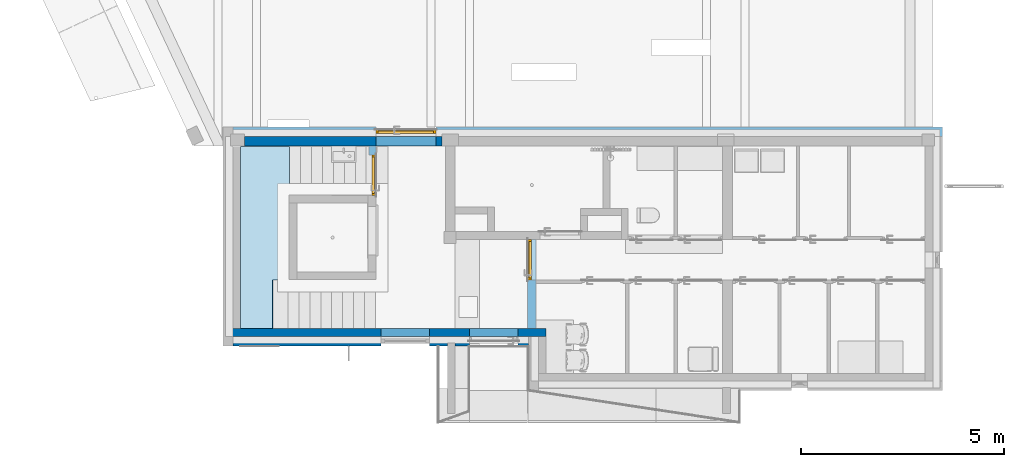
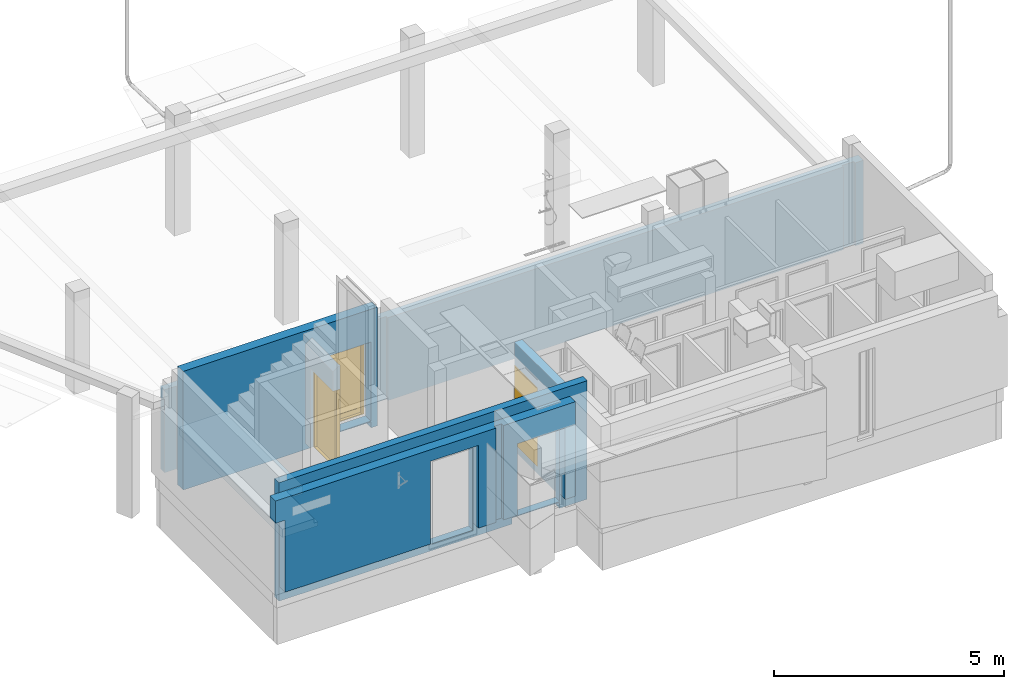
# One storey, part 6 of 55: 3 doors, 3 walls, 1 slab, 3 openings, 1 element without a shape of its own, plus 3 elements that do not belong to this part.
"""IFC2X3 building model written with IfcOpenShell, lengths in millimetres."""

from ifc_helpers import new_model, entity, si_unit, converted_unit, direction, frame, frame_2d, origin, place, context, subcontext, project, spatial, polyline, rectangle, extrude, clip, bounded_halfspace, faceted_brep, source, transform, mapped, material, material_list, layer, layer_set, layer_usage, type_object, type_shapes, element, fill, aggregate, save


model = new_model("IFC2X3")

# Units and contexts
model_context = context("Model", 3, precision=0.01, world=origin(), true_north=direction((6.123233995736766e-17, 1.0)))
plan_context = context("Plan", 3, precision=0.01, world=origin(), true_north=direction((6.123233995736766e-17, 1.0)))
body_context = subcontext(model_context, "Body", "Model", "MODEL_VIEW")
ifc_project = project(units=[si_unit("LENGTHUNIT", "METRE", prefix="MILLI"), converted_unit("PLANEANGLEUNIT", "DEGREE", entity("IfcPlaneAngleMeasure", 0.017453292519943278), si_unit("PLANEANGLEUNIT", "RADIAN"), dimensions=[0, 0, 0, 0, 0, 0, 0]), si_unit("AREAUNIT", "SQUARE_METRE")], contexts=[model_context, plan_context])

# Site, building, storey
site_placement = place(None, origin())
site = spatial("IfcSite", under=ifc_project, at=site_placement, Name="Default", CompositionType="ELEMENT")
building_placement = place(site_placement, origin())
building = spatial("IfcBuilding", under=site, at=building_placement, CompositionType="ELEMENT")
storey_placement = place(building_placement, origin())
storey = spatial("IfcBuildingStorey", under=building, at=storey_placement, Name="1K", CompositionType="ELEMENT", Elevation=0.0)

# Stair, slab
type_product = type_object("IfcTypeProduct", Name="Precast Stair:Default. Monteeritav raudbetoontrepp")
stair_placement = place(storey_placement, origin())
stair = element("IfcStair", 1, at=stair_placement, inside=storey, type_object=type_product, Name="Precast Stair:Stair", ObjectType="Precast Stair:Default. Monteeritav raudbetoontrepp", ShapeType="HALF_TURN_STAIR")
ifc_material_1 = material(Name="Temp. Betoon. Armeeritud. Kohtvalu")
slab_type = type_object("IfcSlabType", Name="Monolithic Landing:Default Landing. Raudbetoon", PredefinedType="LANDING")
slab_placement = place(stair_placement, frame((0.0, 1905.0014695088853, 0.0)))
slab = element("IfcSlab", 2, at=slab_placement, type_object=slab_type, material=ifc_material_1, Name="Precast Stair:Stair:496210 Landing 1", ObjectType="Monolithic Landing:Default Landing. Raudbetoon", PredefinedType="LANDING", context=body_context, shape_type="Brep", body=[
    faceted_brep([(902.4937255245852, 1204.9923864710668, 1542.5), (1213.7438214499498, 1204.9923864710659, 1542.5), (1213.7438214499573, 3292.4954377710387, 1542.5), (1213.7438214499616, 4492.495437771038, 1542.5), (0.0, 4492.495437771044, 1542.5), (0.0, 0.0, 1542.5), (792.4937255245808, 0.0, 1542.5), (792.4937255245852, 1201.5875000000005, 1542.5), (902.4937255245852, 1201.5875, 1542.5), (902.4937255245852, 1204.9923864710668, 1322.4999999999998), (902.4937255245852, 1201.5875, 1322.4999999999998), (1213.7438214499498, 1204.9923864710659, 1322.4999999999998), (1213.7438214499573, 3292.4954377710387, 1322.4999999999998), (1213.7438214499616, 4492.495437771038, 1322.4999999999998), (0.0, 4492.495437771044, 1322.4999999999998), (0.0, 0.0, 1322.4999999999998), (892.4937255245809, 0.0, 1322.4999999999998), (892.4937255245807, 0.0, 1432.5), (792.4937255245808, 0.0, 1432.5), (892.4937255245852, 1201.5875, 1322.4999999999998), (892.4937255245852, 1201.5875, 1432.5), (792.4937255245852, 1201.5875000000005, 1432.5)], [[[0, 1, 2, 3, 4, 5, 6, 7, 8]], [[9, 0, 8, 10]], [[1, 0, 9, 11]], [[2, 1, 11, 12]], [[4, 3, 13, 14]], [[5, 4, 14, 15]], [[5, 15, 16, 17, 18, 6]], [[11, 9, 10, 19, 16, 15, 14, 13, 12]], [[20, 21, 18, 17]], [[7, 21, 20, 19, 10, 8]], [[21, 7, 6, 18]], [[20, 17, 16, 19]], [[3, 2, 12, 13]]]),
])
aggregate(stair, [slab])

# Wall
ifc_material_2 = material(Name="_K. Müüritis. Väikeplokk. Betoon-õõnesplokk")
ifc_layer_1 = layer(ifc_material_2, 240.0)
ifc_layer_set_1 = layer_set([ifc_layer_1], Name="Basic Wall:Columbia 240mm")
wall_type_1 = type_object("IfcWallType", Name="Basic Wall:Columbia 240mm", PredefinedType="STANDARD", material=ifc_layer_set_1)
wall_1_placement = place(storey_placement, frame((100.0, 6525.000000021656, -180.0)))
element("IfcWall", 3, at=wall_1_placement, inside=storey, type_object=wall_type_1, Name="Basic Wall:Columbia 240mm", ObjectType="Basic Wall:Columbia 240mm", context=body_context, shape_type="Brep", body=[
    faceted_brep([(4880.001886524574, -120.0, 3150.0), (0.0, -120.0, 3150.0), (0.0, -120.0, 160.0), (0.0, -120.0, 0.0), (3220.0, -120.0, 0.0), (3220.0, -120.0, 160.0), (4720.0, -120.0, 160.0), (4720.0, -120.0, 0.0), (4880.001886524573, -120.0, 0.0), (4880.001886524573, -120.0, 160.0), (4720.0, -120.0, 2280.0), (4720.0, -120.0, 180.0), (3250.0, -120.0, 180.0), (3250.0, -120.0, 2280.0), (4720.0, 120.0, 180.0), (4720.0, 120.0, 380.0), (4720.0, 120.0, 2280.0), (3250.0, 120.0, 2280.0), (3250.0, 120.0, 380.0), (3250.0, 120.0, 180.0), (4880.001886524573, 120.0, 3150.0), (4880.001886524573, 120.0, 2580.9998016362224), (4880.001886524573, 120.0, 380.0), (4880.001886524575, 120.0, 0.0), (4720.0, 120.0, 0.0), (4720.0, 120.0, 160.0), (3220.0, 120.0, 160.0), (3220.0, 120.0, 0.0), (0.0, 120.0, 0.0), (0.0, 120.0, 380.0), (0.0, 120.0, 2580.9998016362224), (0.0, 120.0, 3150.0)], [[[0, 1, 2, 3, 4, 5, 6, 7, 8, 9], [10, 11, 12, 13]], [[14, 15, 16, 17, 18, 19], [20, 21, 22, 23, 24, 25, 26, 27, 28, 29, 30, 31]], [[3, 28, 27, 4]], [[23, 22, 21, 20, 0, 9, 8]], [[1, 0, 20, 31]], [[31, 30, 29, 28, 3, 2, 1]], [[14, 11, 10, 16, 15]], [[11, 14, 19, 12]], [[12, 19, 18, 17, 13]], [[16, 10, 13, 17]], [[25, 6, 5, 26]], [[26, 5, 4, 27]], [[6, 25, 24, 7]], [[23, 8, 7, 24]]], outer=[[True, False], [False, True], [True], [True], [True], [True], [True], [True], [True], [True], [True], [True], [True], [True]]),
])

# Wall, opening, door
ifc_material_3 = material(Name="_K. Väisviimistlus. Krohv. Valge")
ifc_layer_2 = layer(ifc_material_3, 5.0)
ifc_layer_3 = layer(ifc_material_2, 190.00000000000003)
ifc_layer_4 = layer(ifc_material_3, 5.0)
ifc_layer_set_2 = layer_set([ifc_layer_2, ifc_layer_3, ifc_layer_4], Name="Basic Wall:SS-01. 190")
ifc_layer_usage_1 = layer_usage(ifc_layer_set_2, "AXIS2", "POSITIVE", -100.00000000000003)
wall_type_2 = type_object("IfcWallType", Name="Basic Wall:SS-01. 190", PredefinedType="STANDARD", material=ifc_layer_set_2)
wall_2_placement = place(storey_placement, frame((7190.0, 4100.0, -180.0), z_axis=(0.0, 0.0, 1.0), x_axis=(0.0, -1.0, 0.0)))
wall_2 = element("IfcWallStandardCase", 4, at=wall_2_placement, inside=storey, type_object=wall_type_2, material=ifc_layer_usage_1, Name="Basic Wall:SS-01. 190", ObjectType="Basic Wall:SS-01. 190", context=body_context, shape_type="SweptSolid", body=[
    extrude(rectangle(XDim=2200.0000000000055, YDim=200.0, at=frame_2d((1100.0000000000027, 2.842170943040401e-14), x_axis=(-1.0, 0.0))), origin(), (0.0, 0.0, 1.0), 2885.0000000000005),
])
opening_1_placement = place(wall_2_placement, frame((4100.0, -7190.0, 180.0), z_axis=(0.0, 0.0, 1.0), x_axis=(0.0, 1.0, 0.0)))
opening_1 = element("IfcOpeningElement", 5, at=opening_1_placement, cuts=wall_2, Name="Basic Wall:SS-01. 190", ObjectType="Opening", context=body_context, shape_type="Brep", body=[
    faceted_brep([(8182.0, 4100.0, 2100.0), (8182.0, 3100.0, 2100.0), (8182.0, 3100.0, 0.0), (8182.0, 4100.0, 0.0), (6090.0, 4100.0, 0.0), (6090.0, 4100.0, 2100.0), (6090.0, 3100.0, 0.0), (6090.0, 3100.0, 2100.0)], [[[0, 1, 2, 3]], [[3, 4, 5, 0]], [[2, 6, 4, 3]], [[1, 7, 6, 2]], [[5, 7, 1, 0]], [[7, 5, 4, 6]]]),
])
ifc_material_4 = material(Name="<Unnamed>")
ifc_material_5 = material(Name="Default")
ifc_material_list_1 = material_list([ifc_material_4, ifc_material_5])
door_style_1 = type_object("IfcDoorStyle", Name="HR_Generic_Hinged_Single:Default. Manteluks lävepakuga. 1000 x 2100 mm. Left", ConstructionType="NOTDEFINED", OperationType="NOTDEFINED", ParameterTakesPrecedence=False, Sizeable=False, material=ifc_material_list_1)
shared_shape_1 = source(origin(), body_context, "Body", "Brep", [
    faceted_brep([(965.0, 1092.0, 20.0), (35.0, 1092.0, 20.0), (35.0, 1062.0, 20.0), (50.0, 1062.0, 20.0), (50.0, 1000.0, 20.0), (950.0, 1000.0, 20.0), (950.0, 1062.0, 20.0), (965.0, 1062.0, 20.0), (35.0, 1092.0, 0.0), (965.0, 1092.0, 0.0), (965.0, 1062.0, 0.0), (950.0, 1062.0, 0.0), (950.0, 1000.0, 0.0), (50.0, 1000.0, 0.0), (50.0, 1062.0, 0.0), (35.0, 1062.0, 0.0)], [[[0, 1, 2, 3, 4, 5, 6, 7]], [[8, 9, 10, 11, 12, 13, 14, 15]], [[1, 0, 9, 8]], [[5, 4, 13, 12]], [[2, 1, 8, 15]], [[0, 7, 10, 9]], [[3, 14, 13, 4]], [[14, 3, 2, 15]], [[6, 11, 10, 7]], [[11, 6, 5, 12]]]),
    faceted_brep([(37.0, 1062.0, 2060.0), (37.0, 1062.0, 25.0), (963.0, 1062.0, 25.0), (963.0, 1062.0, 2060.0), (27.0, 1102.0, 25.0), (27.0, 1102.0, 2070.0), (973.0, 1102.0, 2070.0), (973.0, 1102.0, 25.0), (37.0, 1092.0, 2060.0), (37.0, 1092.0, 25.0), (27.0, 1092.0, 25.0), (973.0, 1092.0, 25.0), (963.0, 1092.0, 25.0), (963.0, 1092.0, 2060.0), (27.0, 1092.0, 2070.0), (973.0, 1092.0, 2070.0)], [[[0, 1, 2, 3]], [[4, 5, 6, 7]], [[1, 0, 8, 9]], [[2, 1, 9, 10, 4, 7, 11, 12]], [[3, 2, 12, 13]], [[0, 3, 13, 8]], [[14, 10, 9, 8, 13, 12, 11, 15]], [[6, 5, 14, 15]], [[7, 6, 15, 11]], [[5, 4, 10, 14]]]),
    faceted_brep([(1000.0, 1000.0, 0.0), (950.0, 1000.0, 0.0), (950.0, 1062.0, 0.0), (965.0, 1062.0, 0.0), (965.0, 1092.0, 0.0), (1000.0, 1092.0, 0.0), (1000.0, 1000.0, 2100.0), (0.0, 1000.0, 2100.0), (0.0, 1000.0, 0.0), (50.0, 1000.0, 0.0), (50.0, 1000.0, 2050.0), (950.0, 1000.0, 2050.0), (950.0, 1062.0, 2050.0), (35.0, 1062.0, 2065.0), (965.0, 1062.0, 2065.0), (50.0, 1062.0, 2050.0), (50.0, 1062.0, 0.0), (35.0, 1062.0, 0.0), (965.0, 1092.0, 2065.0), (0.0, 1092.0, 0.0), (0.0, 1092.0, 2100.0), (1000.0, 1092.0, 2100.0), (35.0, 1092.0, 2065.0), (35.0, 1092.0, 0.0)], [[[0, 1, 2, 3, 4, 5]], [[1, 0, 6, 7, 8, 9, 10, 11]], [[1, 11, 12, 2]], [[13, 14, 3, 2, 12, 15, 16, 17]], [[3, 14, 18, 4]], [[19, 20, 21, 5, 4, 18, 22, 23]], [[0, 5, 21, 6]], [[8, 19, 23, 17, 16, 9]], [[19, 8, 7, 20]], [[13, 17, 23, 22]], [[10, 9, 16, 15]], [[7, 6, 21, 20]], [[11, 10, 15, 12]], [[14, 13, 22, 18]]]),
])
type_shapes(door_style_1, [shared_shape_1])
door_1_placement = place(opening_1_placement, frame((8182.0, 3100.0, 0.0), z_axis=(0.0, 0.0, 1.0), x_axis=(0.0, 1.0, 0.0)))
door_1 = element("IfcDoor", 6, at=door_1_placement, inside=storey, type_object=door_style_1, material=ifc_material_list_1, Name="HR_Generic_Hinged_Single:Default. Manteluks lävepakuga. 1000 x 2100 mm. Left", ObjectType="HR_Generic_Hinged_Single:Default. Manteluks lävepakuga. 1000 x 2100 mm. Left", OverallHeight=2130.000000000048, OverallWidth=1060.0000000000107, context=body_context, shape_type="MappedRepresentation", body=[
    mapped(shared_shape_1, transform((0.0, 0.0, 0.0), scale=1.0)),
])
fill(opening_1, door_1)

# Wall
ifc_layer_5 = layer(ifc_material_2, 190.00000000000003)
ifc_layer_set_3 = layer_set([ifc_layer_5], Name="Basic Wall:Columbia 190mm")
wall_type_3 = type_object("IfcWallType", Name="Basic Wall:Columbia 190mm", PredefinedType="STANDARD", material=ifc_layer_set_3)
wall_3_placement = place(storey_placement, frame((7540.0, 1805.0, -180.0), z_axis=(0.0, 0.0, 1.0), x_axis=(-1.0, 0.0, 0.0)))
element("IfcWall", 7, at=wall_3_placement, inside=storey, type_object=wall_type_3, Name="Basic Wall:Columbia 190mm", ObjectType="Basic Wall:Columbia 190mm", context=body_context, shape_type="Brep", body=[
    faceted_brep([(7740.0, -95.0, 3150.0002019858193), (7540.0, -95.0, 3150.0002019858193), (2490.004939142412, -95.0, 3150.0002019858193), (0.0, -95.0, 3150.0002019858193), (0.0, -95.0, 0.0), (250.0, -95.0, 0.0), (450.0, -95.0, 0.0), (690.0, -95.0, 0.0), (690.0, -95.0, 160.0), (1890.0, -95.0, 160.0), (1890.0, -95.0, 0.0), (7540.0, -95.0, 0.0), (7740.0, -95.0, 0.0), (7740.0, -95.0, 380.0), (7740.0, -95.0, 2295.0), (1890.0, -95.0, 2280.0), (1890.0, -95.0, 180.0), (690.0, -95.0, 180.0), (690.0, -95.0, 2280.0), (4070.0, -95.0, 2580.0), (4070.0, -95.0, 180.0), (2870.0, -95.0, 180.0), (2870.0, -95.0, 2580.0), (0.0, 95.0, 3150.0002019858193), (2490.004939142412, 95.0, 3150.0002019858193), (7540.0, 95.0, 3150.0002019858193), (7740.0, 95.0, 3150.0002019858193), (7740.0, 95.0, 2295.0), (7740.0, 95.0, 380.0), (7740.0, 95.0, 0.0), (1890.0, 95.0, 0.0), (1890.0, 95.0, 160.0), (690.0, 95.0, 160.0), (690.0, 95.0, 0.0), (190.0, 95.0, 0.0), (0.0, 95.0, 0.0), (0.0, 95.0, 2885.0), (1890.0, 95.0, 180.0), (1890.0, 95.0, 380.0), (1890.0, 95.0, 2280.0), (690.0, 95.0, 2280.0), (690.0, 95.0, 380.0), (690.0, 95.0, 180.0), (4070.0, 95.0, 180.0), (4070.0, 95.0, 380.0), (4070.0, 95.0, 2580.0), (2870.0, 95.0, 2580.0), (2870.0, 95.0, 380.0), (2870.0, 95.0, 180.0)], [[[0, 1, 2, 3, 4, 5, 6, 7, 8, 9, 10, 11, 12, 13, 14], [15, 16, 17, 18], [19, 20, 21, 22]], [[23, 24, 25, 26, 27, 28, 29, 30, 31, 32, 33, 34, 35, 36], [37, 38, 39, 40, 41, 42], [43, 44, 45, 46, 47, 48]], [[4, 35, 34, 33, 7, 6, 5]], [[3, 2, 1, 0, 26, 25, 24, 23]], [[0, 14, 13, 12, 29, 28, 27, 26]], [[4, 3, 23, 36, 35]], [[37, 16, 15, 39, 38]], [[16, 37, 42, 17]], [[17, 42, 41, 40, 18]], [[39, 15, 18, 40]], [[43, 20, 19, 45, 44]], [[45, 19, 22, 46]], [[21, 48, 47, 46, 22]], [[20, 43, 48, 21]], [[31, 9, 8, 32]], [[32, 8, 7, 33]], [[9, 31, 30, 10]], [[29, 12, 11, 10, 30]]]),
])

# Wall, opening, door
ifc_layer_6 = layer(ifc_material_3, 10.0)
ifc_material_6 = material(Name="_K. Soojustus. EPS Silver")
ifc_layer_7 = layer(ifc_material_6, 230.0)
ifc_layer_set_4 = layer_set([ifc_layer_6, ifc_layer_7], Name="Basic Wall:VS-01")
ifc_layer_usage_2 = layer_usage(ifc_layer_set_4, "AXIS2", "NEGATIVE", 120.0)
wall_type_4 = type_object("IfcWallType", Name="Basic Wall:VS-01", PredefinedType="STANDARD", material=ifc_layer_set_4)
wall_4_placement = place(storey_placement, frame((-190.0, 6765.000000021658, 200.0)))
wall_4 = element("IfcWallStandardCase", 8, at=wall_4_placement, inside=storey, type_object=wall_type_4, material=ifc_layer_usage_2, Name="Basic Wall:VS-01", ObjectType="Basic Wall:VS-01", context=body_context, shape_type="Clipping", body=[
    clip(clip(clip(clip(extrude(rectangle(XDim=17519.999999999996, YDim=239.9999999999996, at=frame_2d((8759.999999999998, -1.4921397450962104e-13), x_axis=(-1.0, 0.0))), origin(), (0.0, 0.0, 1.0), 2200.9998016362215), bounded_halfspace(frame((0.0, -60.0, 0.0), z_axis=(0.0, 1.0, 0.0), x_axis=(0.0, 0.0, -1.0)), True, frame((0.0, -60.0, 0.0), z_axis=(0.0, 1.0, 0.0), x_axis=(0.0, 0.0, -1.0)), polyline([(0.0, 0.0), (-1915.0, 0.0), (-2200.9998016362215, 0.0), (-2200.9998016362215, -290.0), (0.0, -290.0), (0.0, 0.0)]))), bounded_halfspace(frame((290.0, -120.0, 0.0), z_axis=(1.0, 0.0, 0.0), x_axis=(0.0, 0.0, -1.0)), True, frame((290.0, -120.0, 0.0), z_axis=(1.0, 0.0, 0.0), x_axis=(0.0, 0.0, -1.0)), polyline([(0.0, 0.0), (0.0, 60.0), (-2200.9998016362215, 60.0), (-2200.9998016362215, 0.0), (0.0, 0.0)]))), bounded_halfspace(frame((5170.001886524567, -60.0, 0.0), z_axis=(0.0, 1.0, 0.0), x_axis=(0.0, 0.0, -1.0)), True, frame((5170.001886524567, -60.0, 0.0), z_axis=(0.0, 1.0, 0.0), x_axis=(0.0, 0.0, -1.0)), polyline([(0.0, 0.0), (-2200.9998016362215, 0.0), (-2200.9998016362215, -400.0), (0.0, -400.0), (0.0, 0.0)]))), bounded_halfspace(frame((17015.0, -60.0, 2200.9998016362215), z_axis=(0.0, 1.0, 0.0), x_axis=(0.0, 0.0, -1.0)), True, frame((17015.0, -60.0, 2200.9998016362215), z_axis=(0.0, 1.0, 0.0), x_axis=(0.0, 0.0, -1.0)), polyline([(0.0, 0.0), (0.0, -300.0), (2200.9998016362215, -300.0), (2200.9998016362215, 0.0), (0.0, 0.0)]))),
])
opening_2_placement = place(wall_4_placement, frame((190.0, -6765.000000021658, -200.0)))
opening_2 = element("IfcOpeningElement", 9, at=opening_2_placement, cuts=wall_4, Name="Basic Wall:VS-01", ObjectType="Opening", context=body_context, shape_type="Brep", body=[
    faceted_brep([(4820.0, 5719.000000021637, 2100.0), (3350.0, 5719.000000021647, 2100.0), (3350.0, 5719.000000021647, 0.0), (4820.0, 5719.000000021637, 0.0), (4820.0, 6719.000000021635, 0.0), (4820.0, 6719.000000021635, -20.0), (4820.0, 6811.000000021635, -20.0), (4820.0, 6811.000000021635, 0.0), (4820.0, 7811.000000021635, 0.0), (4820.0, 7811.000000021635, 2100.0), (3350.0, 6719.000000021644, 0.0), (3350.0, 7811.000000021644, 2100.0), (3350.0, 7811.000000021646, 0.0), (3350.0, 6811.000000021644, 0.0), (3350.0, 6811.000000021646, -20.0), (3350.0, 6719.000000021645, -20.0)], [[[0, 1, 2, 3]], [[3, 4, 5, 6, 7, 8, 9, 0]], [[2, 10, 4, 3]], [[1, 11, 12, 13, 14, 15, 10, 2]], [[9, 11, 1, 0]], [[11, 9, 8, 12]], [[8, 7, 13, 12]], [[14, 13, 7, 6]], [[5, 4, 10, 15]], [[6, 5, 15, 14]]]),
])
ifc_material_7 = material(Name="_K. Avatäited. Raam. Alumiinium")
ifc_material_8 = material(Name="_K. Klaas. Pakett")
ifc_material_list_2 = material_list([ifc_material_7, ifc_material_8])
door_style_2 = type_object("IfcDoorStyle", Name="HR_Generic_Hinged_Double:Default. Klaasprofiiluks lävepakuga. 1500 x 2100 mm", ConstructionType="NOTDEFINED", OperationType="NOTDEFINED", ParameterTakesPrecedence=False, Sizeable=False, material=ifc_material_list_2)
shared_shape_2 = source(origin(), body_context, "Body", "Brep", [
    faceted_brep([(1435.0, -1000.0, 40.0), (35.0, -1000.0, 40.0), (35.0, -1030.0, 40.0), (50.0, -1030.0, 40.0), (50.0, -1092.0, 40.0), (1420.0, -1092.0, 40.0), (1420.0, -1030.0, 40.0), (1435.0, -1030.0, 40.0), (35.0, -1000.0, 20.0), (1435.0, -1000.0, 20.0), (1435.0, -1030.0, 20.0), (1420.0, -1030.0, 20.0), (1420.0, -1092.0, 20.0), (50.0, -1092.0, 20.0), (50.0, -1030.0, 20.0), (35.0, -1030.0, 20.0)], [[[0, 1, 2, 3, 4, 5, 6, 7]], [[8, 9, 10, 11, 12, 13, 14, 15]], [[1, 0, 9, 8]], [[5, 4, 13, 12]], [[2, 1, 8, 15]], [[0, 7, 10, 9]], [[3, 14, 13, 4]], [[14, 3, 2, 15]], [[6, 11, 10, 7]], [[11, 6, 5, 12]]]),
    faceted_brep([(1323.0, -995.0, 170.0), (490.0, -995.0, 170.0), (490.0, -995.0, 1970.0), (1323.0, -995.0, 1970.0), (1323.0, -1020.0, 170.0), (490.0, -1020.0, 170.0), (490.0, -1020.0, 1970.0), (1323.0, -1020.0, 1970.0)], [[[0, 1, 2, 3]], [[1, 0, 4, 5]], [[2, 1, 5, 6]], [[0, 3, 7, 4]], [[4, 7, 6, 5]], [[3, 2, 6, 7]]]),
    faceted_brep([(250.0, -995.0, 1970.0), (250.0, -995.0, 170.0), (147.0, -995.0, 170.0), (147.0, -995.0, 1970.0), (250.0, -1020.0, 1970.0), (147.0, -1020.0, 1970.0), (147.0, -1020.0, 170.0), (250.0, -1020.0, 170.0)], [[[0, 1, 2, 3]], [[4, 5, 6, 7]], [[1, 0, 4, 7]], [[2, 1, 7, 6]], [[3, 2, 6, 5]], [[0, 3, 5, 4]]]),
    faceted_brep([(27.0, -990.0, 2090.0), (373.0, -990.0, 2090.0), (373.0, -990.0, 45.0), (37.0, -990.0, 45.0), (37.0, -990.0, 50.0), (27.0, -990.0, 50.0), (250.0, -990.0, 170.0), (250.0, -990.0, 1970.0), (147.0, -990.0, 1970.0), (147.0, -990.0, 170.0), (27.0, -1000.0, 2090.0), (27.0, -1000.0, 50.0), (37.0, -1000.0, 50.0), (37.0, -1000.0, 2080.0), (373.0, -1000.0, 2080.0), (373.0, -1000.0, 2090.0), (373.0, -1010.0, 2080.0), (373.0, -1010.0, 45.0), (365.0, -1030.0, 2080.0), (365.0, -1010.0, 2080.0), (37.0, -1030.0, 2080.0), (365.0, -1030.0, 45.0), (365.0, -1010.0, 45.0), (37.0, -1030.0, 45.0), (250.0, -1030.0, 1970.0), (250.0, -1030.0, 170.0), (147.0, -1030.0, 170.0), (147.0, -1030.0, 1970.0)], [[[0, 1, 2, 3, 4, 5], [6, 7, 8, 9]], [[10, 11, 12, 13, 14, 15]], [[1, 0, 10, 15]], [[1, 15, 14, 16, 17, 2]], [[11, 5, 4, 12]], [[0, 5, 11, 10]], [[18, 19, 16, 14, 13, 20]], [[19, 18, 21, 22]], [[16, 19, 22, 17]], [[3, 23, 20, 13, 12, 4]], [[18, 20, 23, 21], [24, 25, 26, 27]], [[6, 25, 24, 7]], [[25, 6, 9, 26]], [[26, 9, 8, 27]], [[7, 24, 27, 8]], [[21, 23, 3, 2, 17, 22]]]),
    faceted_brep([(375.0, -990.0, 2090.0), (1443.0, -990.0, 2090.0), (1443.0, -990.0, 45.0), (375.0, -990.0, 45.0), (490.0, -990.0, 170.0), (1323.0, -990.0, 170.0), (1323.0, -990.0, 1970.0), (490.0, -990.0, 1970.0), (1443.0, -1000.0, 45.0), (1443.0, -1000.0, 2090.0), (375.0, -1000.0, 2090.0), (375.0, -1000.0, 2080.0), (1433.0, -1000.0, 2080.0), (1433.0, -1000.0, 45.0), (1433.0, -1030.0, 45.0), (367.0, -1030.0, 45.0), (367.0, -1010.0, 45.0), (375.0, -1010.0, 45.0), (375.0, -1010.0, 2080.0), (367.0, -1010.0, 2080.0), (367.0, -1030.0, 2080.0), (1433.0, -1030.0, 2080.0), (1323.0, -1030.0, 170.0), (490.0, -1030.0, 170.0), (490.0, -1030.0, 1970.0), (1323.0, -1030.0, 1970.0)], [[[0, 1, 2, 3], [4, 5, 6, 7]], [[8, 9, 10, 11, 12, 13]], [[1, 0, 10, 9]], [[2, 1, 9, 8]], [[2, 8, 13, 14, 15, 16, 17, 3]], [[10, 0, 3, 17, 18, 11]], [[19, 20, 21, 12, 11, 18]], [[20, 19, 16, 15]], [[21, 20, 15, 14], [22, 23, 24, 25]], [[21, 14, 13, 12]], [[19, 18, 17, 16]], [[4, 23, 22, 5]], [[23, 4, 7, 24]], [[24, 7, 6, 25]], [[5, 22, 25, 6]]]),
    faceted_brep([(1470.0, -1092.0, 20.0), (1420.0, -1092.0, 20.0), (1420.0, -1030.0, 20.0), (1435.0, -1030.0, 20.0), (1435.0, -1000.0, 20.0), (1470.0, -1000.0, 20.0), (1470.0, -1092.0, 2120.0), (0.0, -1092.0, 2120.0), (0.0, -1092.0, 20.0), (50.0, -1092.0, 20.0), (50.0, -1092.0, 2070.0), (1420.0, -1092.0, 2070.0), (1420.0, -1030.0, 2070.0), (35.0, -1030.0, 2085.0), (1435.0, -1030.0, 2085.0), (50.0, -1030.0, 2070.0), (50.0, -1030.0, 20.0), (35.0, -1030.0, 20.0), (1435.0, -1000.0, 2085.0), (0.0, -1000.0, 20.0), (0.0, -1000.0, 2120.0), (1470.0, -1000.0, 2120.0), (35.0, -1000.0, 2085.0), (35.0, -1000.0, 20.0)], [[[0, 1, 2, 3, 4, 5]], [[1, 0, 6, 7, 8, 9, 10, 11]], [[1, 11, 12, 2]], [[13, 14, 3, 2, 12, 15, 16, 17]], [[3, 14, 18, 4]], [[19, 20, 21, 5, 4, 18, 22, 23]], [[0, 5, 21, 6]], [[8, 19, 23, 17, 16, 9]], [[19, 8, 7, 20]], [[13, 17, 23, 22]], [[10, 9, 16, 15]], [[7, 6, 21, 20]], [[11, 10, 15, 12]], [[14, 13, 22, 18]]]),
])
type_shapes(door_style_2, [shared_shape_2])
door_2_placement = place(opening_2_placement, frame((3350.0, 7811.000000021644, -20.0)))
door_2 = element("IfcDoor", 10, at=door_2_placement, inside=storey, type_object=door_style_2, material=ifc_material_list_2, Name="HR_Generic_Hinged_Double:Default. Klaasprofiiluks lävepakuga. 1500 x 2100 mm", ObjectType="HR_Generic_Hinged_Double:Default. Klaasprofiiluks lävepakuga. 1500 x 2100 mm", OverallHeight=2149.999999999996, OverallWidth=1530.0000000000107, context=body_context, shape_type="MappedRepresentation", body=[
    mapped(shared_shape_2, transform((0.0, 0.0, 0.0), scale=1.0)),
])
fill(opening_2, door_2)

# Wall
wall_5_placement = place(storey_placement, frame((7110.0, 1590.0, 200.0), z_axis=(0.0, 0.0, 1.0), x_axis=(-1.0, 0.0, 0.0)))
element("IfcWall", 11, at=wall_5_placement, inside=storey, type_object=wall_type_4, Name="Basic Wall:VS-01", ObjectType="Basic Wall:VS-01", context=body_context, shape_type="Brep", body=[
    faceted_brep([(7540.0, -120.0, 2504.9998016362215), (2240.0, -120.0, 2504.9998016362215), (0.0, -120.0, 2504.9998016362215), (0.0, -120.0, 0.0), (260.0, -120.0, 0.0), (260.0, -120.0, 1900.0), (1460.0, -120.0, 1900.0), (1460.0, -120.0, 0.0), (2440.0, -120.0, 0.0), (2440.0, -120.0, 2200.0), (3640.0, -120.0, 2200.0), (3640.0, -120.0, 0.0), (7300.0, -120.0, 0.0), (7300.0, -120.0, 1915.0), (7540.0, -120.0, 1915.0), (7540.0, 120.0, 1915.0), (7300.0, 120.0, 1915.0), (7300.0, 120.0, 0.0), (3640.0, 120.0, 0.0), (3640.0, 120.0, 2200.0), (2440.0, 120.0, 2200.0), (2440.0, 120.0, 0.0), (2000.0, 120.0, 0.0), (2000.0, 120.0, 2504.9998016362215), (2240.0, 120.0, 2504.9998016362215), (7540.0, 120.0, 2504.9998016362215), (0.0, 120.0, 0.0), (260.0, 120.0, 0.0), (2000.0, 40.0, 2504.9998016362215), (1810.0, 40.0, 2504.9998016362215), (1810.0, 120.0, 2504.9998016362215), (0.0, 120.0, 2504.9998016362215), (1460.0, 120.0, 1900.0), (1460.0, 120.0, 0.0), (260.0, 120.0, 1900.0), (2000.0, 40.0, 0.0), (1810.0, 40.0, 0.0), (1810.0, 120.0, 0.0)], [[[0, 1, 2, 3, 4, 5, 6, 7, 8, 9, 10, 11, 12, 13, 14]], [[15, 16, 17, 18, 19, 20, 21, 22, 23, 24, 25]], [[3, 26, 27, 4]], [[2, 1, 0, 25, 24, 23, 28, 29, 30, 31]], [[14, 13, 16, 15]], [[12, 17, 16, 13]], [[25, 0, 14, 15]], [[3, 2, 31, 26]], [[6, 32, 33, 7]], [[34, 5, 4, 27]], [[32, 6, 5, 34]], [[11, 10, 19, 18]], [[19, 10, 9, 20]], [[9, 8, 21, 20]], [[35, 28, 23, 22]], [[29, 36, 37, 30]], [[28, 35, 36, 29]], [[7, 33, 37, 36, 35, 22, 21, 8]], [[17, 12, 11, 18]], [[26, 31, 30, 37, 33, 32, 34, 27]]]),
])

# Wall, opening, door
ifc_layer_8 = layer(ifc_material_3, 10.0)
ifc_material_9 = material(Name="_K. Müüritis. Väikeplokk. Kergkruusplokk")
ifc_layer_9 = layer(ifc_material_9, 150.0)
ifc_layer_10 = layer(ifc_material_3, 10.0)
ifc_layer_set_5 = layer_set([ifc_layer_8, ifc_layer_9, ifc_layer_10], Name="Basic Wall:SS-03. Šahti sein")
ifc_layer_usage_3 = layer_usage(ifc_layer_set_5, "AXIS2", "NEGATIVE", 85.00000000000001)
wall_type_5 = type_object("IfcWallType", Name="Basic Wall:SS-03. Šahti sein", PredefinedType="STANDARD", material=ifc_layer_set_5)
wall_6_placement = place(storey_placement, frame((3254.9935349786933, 6405.000000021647, 0.0), z_axis=(0.0, 0.0, 1.0), x_axis=(0.0, -1.0, 0.0)))
wall_6 = element("IfcWallStandardCase", 12, at=wall_6_placement, inside=storey, type_object=wall_type_5, material=ifc_layer_usage_3, Name="Basic Wall:SS-03. Šahti sein", ObjectType="Basic Wall:SS-03. Šahti sein", context=body_context, shape_type="Clipping", body=[
    clip(extrude(rectangle(XDim=1205.0015664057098, YDim=170.00000000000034, at=frame_2d((602.5007832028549, 0.0), x_axis=(-1.0, 0.0))), origin(), (0.0, 0.0, 1.0), 2731.848554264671), bounded_halfspace(frame((0.0, -85.0, 2622.537854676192), z_axis=(0.0, -0.5408450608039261, 0.8411222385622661), x_axis=(0.0, -0.8411222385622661, -0.5408450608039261)), False, frame((0.0, -85.0, 2622.537854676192)), polyline([(0.0, 0.0), (1205.0015664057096, 0.0), (1205.0015664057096, 170.0), (0.0, 170.0), (0.0, 0.0)]))),
])
opening_3_placement = place(wall_6_placement, frame((6405.000000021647, -3254.9935349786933, 0.0), z_axis=(0.0, 0.0, 1.0), x_axis=(0.0, 1.0, 0.0)))
opening_3 = element("IfcOpeningElement", 13, at=opening_3_placement, cuts=wall_6, Name="Basic Wall:SS-03. Šahti sein", ObjectType="Opening", context=body_context, shape_type="Brep", body=[
    faceted_brep([(2247.9935349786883, 5189.998433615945, 2100.0), (2247.993534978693, 6189.998433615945, 2100.0), (2247.993534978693, 6189.998433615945, 0.0), (2247.9935349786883, 5189.998433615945, 0.0), (4339.9935349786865, 5189.998433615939, 0.0), (4339.9935349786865, 5189.998433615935, 2100.0), (4339.993534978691, 6189.998433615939, 0.0), (4339.993534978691, 6189.998433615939, 2100.0)], [[[0, 1, 2, 3]], [[3, 4, 5, 0]], [[2, 6, 4, 3]], [[1, 7, 6, 2]], [[5, 7, 1, 0]], [[7, 5, 4, 6]]]),
])
door_style_3 = type_object("IfcDoorStyle", Name="HR_Generic_Hinged_Single:Default. Manteluks lävepakuga. 1000 x 2100 mm. Right", ConstructionType="NOTDEFINED", OperationType="NOTDEFINED", ParameterTakesPrecedence=False, Sizeable=False, material=ifc_material_4)
shared_shape_3 = source(origin(), body_context, "Body", "Brep", [
    faceted_brep([(965.0, -1000.0, 20.0), (35.0, -1000.0, 20.0), (35.0, -1030.0, 20.0), (50.0, -1030.0, 20.0), (50.0, -1092.0, 20.0), (950.0, -1092.0, 20.0), (950.0, -1030.0, 20.0), (965.0, -1030.0, 20.0), (35.0, -1000.0, 0.0), (965.0, -1000.0, 0.0), (965.0, -1030.0, 0.0), (950.0, -1030.0, 0.0), (950.0, -1092.0, 0.0), (50.0, -1092.0, 0.0), (50.0, -1030.0, 0.0), (35.0, -1030.0, 0.0)], [[[0, 1, 2, 3, 4, 5, 6, 7]], [[8, 9, 10, 11, 12, 13, 14, 15]], [[1, 0, 9, 8]], [[5, 4, 13, 12]], [[2, 1, 8, 15]], [[0, 7, 10, 9]], [[3, 14, 13, 4]], [[14, 3, 2, 15]], [[6, 11, 10, 7]], [[11, 6, 5, 12]]]),
    faceted_brep([(37.0, -1030.0, 2060.0), (37.0, -1030.0, 25.0), (963.0, -1030.0, 25.0), (963.0, -1030.0, 2060.0), (27.0, -990.0, 25.0), (27.0, -990.0, 2070.0), (973.0, -990.0, 2070.0), (973.0, -990.0, 25.0), (37.0, -1000.0, 2060.0), (37.0, -1000.0, 25.0), (27.0, -1000.0, 25.0), (973.0, -1000.0, 25.0), (963.0, -1000.0, 25.0), (963.0, -1000.0, 2060.0), (27.0, -1000.0, 2070.0), (973.0, -1000.0, 2070.0)], [[[0, 1, 2, 3]], [[4, 5, 6, 7]], [[1, 0, 8, 9]], [[2, 1, 9, 10, 4, 7, 11, 12]], [[3, 2, 12, 13]], [[0, 3, 13, 8]], [[14, 10, 9, 8, 13, 12, 11, 15]], [[6, 5, 14, 15]], [[7, 6, 15, 11]], [[5, 4, 10, 14]]]),
    faceted_brep([(1000.0, -1092.0, 0.0), (950.0, -1092.0, 0.0), (950.0, -1030.0, 0.0), (965.0, -1030.0, 0.0), (965.0, -1000.0, 0.0), (1000.0, -1000.0, 0.0), (1000.0, -1092.0, 2100.0), (0.0, -1092.0, 2100.0), (0.0, -1092.0, 0.0), (50.0, -1092.0, 0.0), (50.0, -1092.0, 2050.0), (950.0, -1092.0, 2050.0), (950.0, -1030.0, 2050.0), (35.0, -1030.0, 2065.0), (965.0, -1030.0, 2065.0), (50.0, -1030.0, 2050.0), (50.0, -1030.0, 0.0), (35.0, -1030.0, 0.0), (965.0, -1000.0, 2065.0), (0.0, -1000.0, 0.0), (0.0, -1000.0, 2100.0), (1000.0, -1000.0, 2100.0), (35.0, -1000.0, 2065.0), (35.0, -1000.0, 0.0)], [[[0, 1, 2, 3, 4, 5]], [[1, 0, 6, 7, 8, 9, 10, 11]], [[1, 11, 12, 2]], [[13, 14, 3, 2, 12, 15, 16, 17]], [[3, 14, 18, 4]], [[19, 20, 21, 5, 4, 18, 22, 23]], [[0, 5, 21, 6]], [[8, 19, 23, 17, 16, 9]], [[19, 8, 7, 20]], [[13, 17, 23, 22]], [[10, 9, 16, 15]], [[7, 6, 21, 20]], [[11, 10, 15, 12]], [[14, 13, 22, 18]]]),
])
type_shapes(door_style_3, [shared_shape_3])
door_3_placement = place(opening_3_placement, frame((4339.993534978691, 6189.998433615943, 0.0), z_axis=(0.0, 0.0, 1.0), x_axis=(0.0, -1.0, 0.0)))
door_3 = element("IfcDoor", 14, at=door_3_placement, inside=storey, type_object=door_style_3, material=ifc_material_4, Name="HR_Generic_Hinged_Single:Default. Manteluks lävepakuga. 1000 x 2100 mm. Right", ObjectType="HR_Generic_Hinged_Single:Default. Manteluks lävepakuga. 1000 x 2100 mm. Right", OverallHeight=2130.000000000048, OverallWidth=1060.0000000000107, context=body_context, shape_type="MappedRepresentation", body=[
    mapped(shared_shape_3, transform((0.0, 0.0, 0.0), scale=1.0)),
])
fill(opening_3, door_3)

save(model, "model.ifc")
